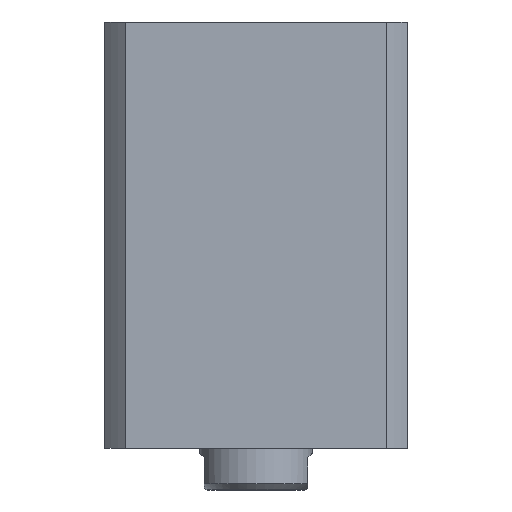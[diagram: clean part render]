
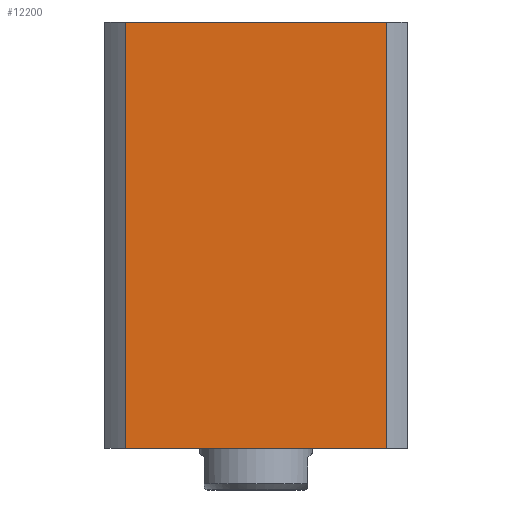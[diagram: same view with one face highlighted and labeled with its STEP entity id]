
A CAD part, front view. The second image highlights one B-rep face of the part: STEP entity #12200.
In plain terms, the highlighted planar face has unit normal (0, -1, 0) as drawn and (0, 1, 0) by its records, which use the part's own axes.
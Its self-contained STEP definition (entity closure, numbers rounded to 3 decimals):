
#1458 = LINE ( 'NONE', #3960, #12687 ) ;
#1958 = CARTESIAN_POINT ( 'NONE',  ( -47., 47., 132. ) ) ;
#2182 = CARTESIAN_POINT ( 'NONE',  ( 40.435, 47., -2868. ) ) ;
#2726 = PLANE ( 'NONE',  #14043 ) ;
#3509 = DIRECTION ( 'NONE',  ( -1., 0., 0. ) ) ;
#3960 = CARTESIAN_POINT ( 'NONE',  ( -47., 47., 0. ) ) ;
#4085 = DIRECTION ( 'NONE',  ( 0., -1., 0. ) ) ;
#4248 = CARTESIAN_POINT ( 'NONE',  ( 40.435, 47., 0. ) ) ;
#4409 = VECTOR ( 'NONE', #3509, 1000. ) ;
#6314 = EDGE_CURVE ( 'NONE', #14647, #17404, #1458, .T. ) ;
#6527 = CARTESIAN_POINT ( 'NONE',  ( -40.435, 47., 132. ) ) ;
#6573 = VERTEX_POINT ( 'NONE', #6860 ) ;
#6689 = FACE_OUTER_BOUND ( 'NONE', #16904, .T. ) ;
#6860 = CARTESIAN_POINT ( 'NONE',  ( 40.435, 47., 132. ) ) ;
#7268 = ORIENTED_EDGE ( 'NONE', *, *, #11779, .F. ) ;
#8637 = ORIENTED_EDGE ( 'NONE', *, *, #9807, .F. ) ;
#8788 = VECTOR ( 'NONE', #16393, 1000. ) ;
#8866 = DIRECTION ( 'NONE',  ( 0., 0., 1. ) ) ;
#9368 = EDGE_CURVE ( 'NONE', #15085, #17404, #10073, .T. ) ;
#9807 = EDGE_CURVE ( 'NONE', #6573, #15085, #15331, .T. ) ;
#10073 = LINE ( 'NONE', #12168, #8788 ) ;
#10652 = CARTESIAN_POINT ( 'NONE',  ( -40.435, 47., 0. ) ) ;
#10800 = CARTESIAN_POINT ( 'NONE',  ( -47., 47., 132. ) ) ;
#11187 = ORIENTED_EDGE ( 'NONE', *, *, #9368, .F. ) ;
#11779 = EDGE_CURVE ( 'NONE', #14647, #6573, #15736, .T. ) ;
#12168 = CARTESIAN_POINT ( 'NONE',  ( -40.435, 47., -2868. ) ) ;
#12200 = ADVANCED_FACE ( 'NONE', ( #6689 ), #2726, .F. ) ;
#12687 = VECTOR ( 'NONE', #13474, 1000. ) ;
#13474 = DIRECTION ( 'NONE',  ( -1., 0., 0. ) ) ;
#13606 = DIRECTION ( 'NONE',  ( 0., 0., -1. ) ) ;
#14043 = AXIS2_PLACEMENT_3D ( 'NONE', #10800, #4085, #13606 ) ;
#14647 = VERTEX_POINT ( 'NONE', #4248 ) ;
#15085 = VERTEX_POINT ( 'NONE', #6527 ) ;
#15310 = VECTOR ( 'NONE', #8866, 1000. ) ;
#15331 = LINE ( 'NONE', #1958, #4409 ) ;
#15736 = LINE ( 'NONE', #2182, #15310 ) ;
#16393 = DIRECTION ( 'NONE',  ( 0., 0., -1. ) ) ;
#16822 = ORIENTED_EDGE ( 'NONE', *, *, #6314, .T. ) ;
#16904 = EDGE_LOOP ( 'NONE', ( #7268, #16822, #11187, #8637 ) ) ;
#17404 = VERTEX_POINT ( 'NONE', #10652 ) ;
